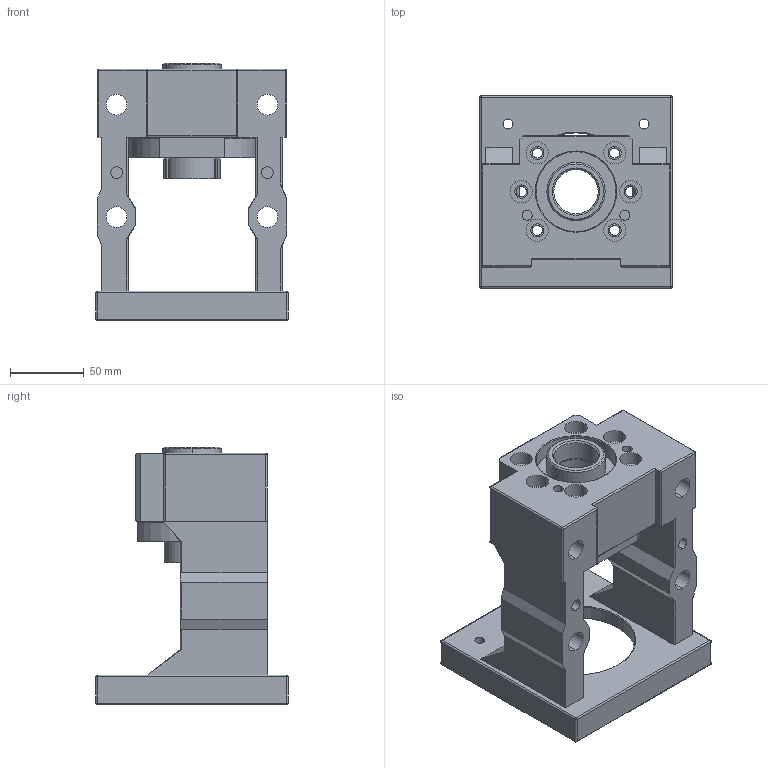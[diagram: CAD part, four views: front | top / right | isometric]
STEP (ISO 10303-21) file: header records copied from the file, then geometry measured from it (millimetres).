
FILE_DESCRIPTION((''),'2;1');
FILE_NAME('M116S-SBK30-C_ASM','2021-03-18T',('Administrator'),(''),'PRO/ENGINEER BY PARAMETRIC TECHNOLOGY CORPORATION, 2010280','PRO/ENGINEER BY PARAMETRIC TECHNOLOGY CORPORATION, 2010280','');
FILE_SCHEMA(('CONFIG_CONTROL_DESIGN'));
Length unit declared in the file: millimetre
Products named in the file (7): PRT0023; PRT0024; PRT0025; PRT0027; M116S-SBK30-C_____________ASM_ASM; M116S-SBK30-C__ASM_ASM; M116S-SBK30-C_ASM
Assembly tree (7 placements, depth 4):
  M116S-SBK30-C_ASM
    M116S-SBK30-C__ASM_ASM
      M116S-SBK30-C_____________ASM_ASM
        PRT0023  x2
        PRT0024
        PRT0025
        PRT0027
Bounding box: 130 x 130 x 174 mm (x, y, z)
Volume: 851197.4 mm3; surface area: 162413.4 mm2
Topology: 5 solids, 5 shells, 285 faces, 719 edges, 444 vertices
Faces by surface type: cylinder 146, plane 87, cone 34, sphere 12, torus 4, extrusion 2
Entity records: 8639 total; most frequent: CARTESIAN_POINT 1752, DIRECTION 1477, ORIENTED_EDGE 1350, EDGE_CURVE 675, AXIS2_PLACEMENT_3D 563, VERTEX_POINT 428, VECTOR 351, LINE 349
